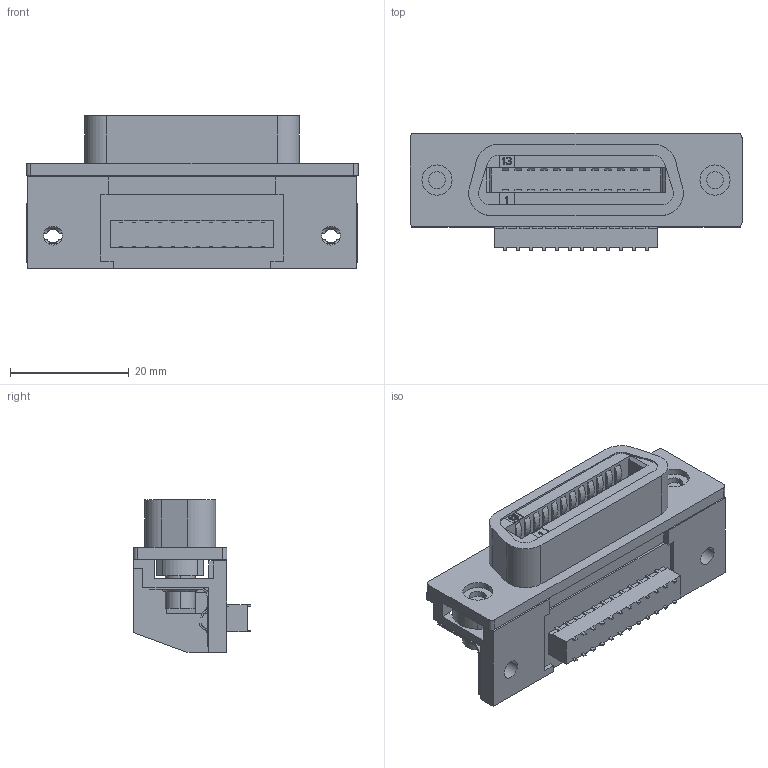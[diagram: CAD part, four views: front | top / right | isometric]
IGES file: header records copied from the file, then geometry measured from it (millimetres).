
Start section:  PTC IGES file: c-5553811-4-o-3d.igs
Global section: file name: c-5553811-4-o-3d.igs; native system: Pro/ENGINEER by Parametric Technology Corporation; preprocessor: 2010430; author: workeradm; organization: Unknown; units: millimetre
Bounding box: 55.88 x 19.74 x 25.65 mm (x, y, z)
Surface area: 8313 mm2 (no closed solid volume)
Topology: 0 solids, 0 shells, 530 faces, 2880 edges, 2880 vertices
Faces by surface type: bspline 420, revolution 110
